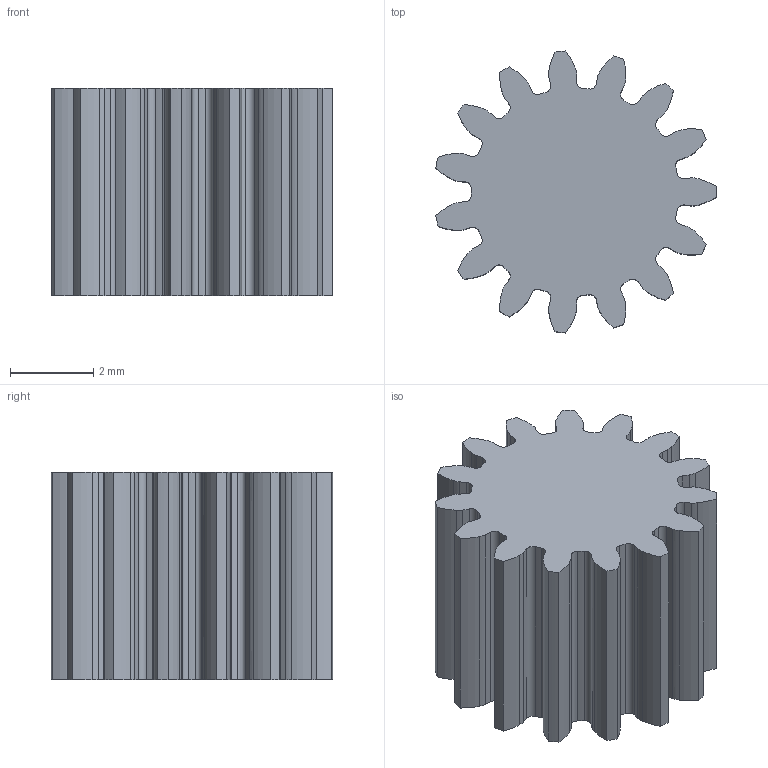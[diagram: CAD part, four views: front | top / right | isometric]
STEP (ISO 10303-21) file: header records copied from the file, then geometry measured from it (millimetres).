
FILE_DESCRIPTION(('FreeCAD Model'),'2;1');
FILE_NAME('Open CASCADE Shape Model','2026-06-05T15:46:05',('Author'),( ''),'Open CASCADE STEP processor 7.8','FreeCAD','Unknown');
FILE_SCHEMA(('AUTOMOTIVE_DESIGN { 1 0 10303 214 1 1 1 1 }'));
Length unit declared in the file: millimetre
Products named in the file (1): Pad
Bounding box: 6.75 x 6.79 x 5 mm (x, y, z)
Volume: 137.2 mm3; surface area: 243.1 mm2
Topology: 1 solids, 1 shells, 152 faces, 450 edges, 300 vertices
Faces by surface type: extrusion 60, cylinder 60, plane 32
Entity records: 5416 total; most frequent: CARTESIAN_POINT 1443, ORIENTED_EDGE 900, DIRECTION 696, EDGE_CURVE 450, VERTEX_POINT 300, VECTOR 270, AXIS2_PLACEMENT_3D 213, LINE 210
